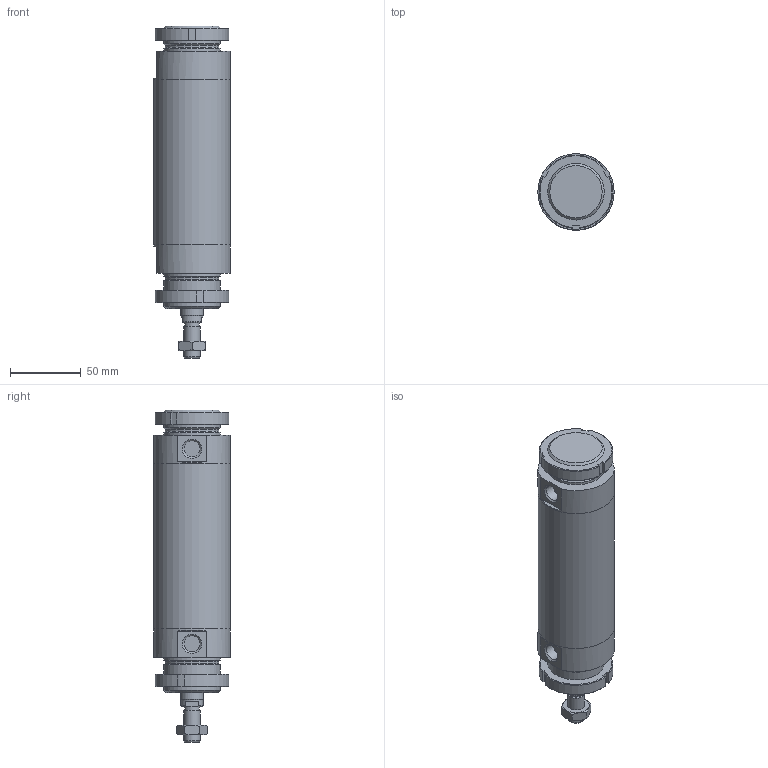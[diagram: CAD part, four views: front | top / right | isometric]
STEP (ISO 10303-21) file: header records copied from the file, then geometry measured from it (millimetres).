
FILE_DESCRIPTION(/* description */ (''),/* implementation_level */ '2;1');
FILE_NAME(/* name */ 'I:\Area Tecnica\Documenti\A-Manieri\_Inventor\12X\12X#C_###_####_#_#\12XAC_050_0075_#_#.stp',/* time_stamp */ '2015-04-28T15:19:39+02:00',/* author */ ('maniean1'),/* organization */ ('Pneumax S.p.A.'),/* preprocessor_version */ 'ST-DEVELOPER v15.2',/* originating_system */ 'Autodesk Inventor 2014',/* authorisation */ '');
FILE_SCHEMA (('AUTOMOTIVE_DESIGN { 1 0 10303 214 3 1 1 }'));
Length unit declared in the file: millimetre
Products named in the file (7): C1250_619-0075; 12X50_604; S12X50_0075; 12X_50_11; 12X50_620; G12X_050_05; 12XAC_050_0075_#_#
Bounding box: 54 x 54 x 235 mm (x, y, z)
Volume: 301005.9 mm3; surface area: 89981.1 mm2
Topology: 7 solids, 7 shells, 106 faces, 240 edges, 154 vertices
Faces by surface type: plane 52, cylinder 27, cone 27
Full cylindrical faces by diameter (mm): 10.2 x1, 11.4 x2, 12 x2, 14 x1, 15.6 x1, 16 x1, 38.2 x2, 40 x6, 50 x2, 54 x3
Entity records: 2243 total; most frequent: CARTESIAN_POINT 413, DIRECTION 382, ORIENTED_EDGE 292, AXIS2_PLACEMENT_3D 165, EDGE_CURVE 146, EDGE_LOOP 132, VERTEX_POINT 112, ADVANCED_FACE 85
